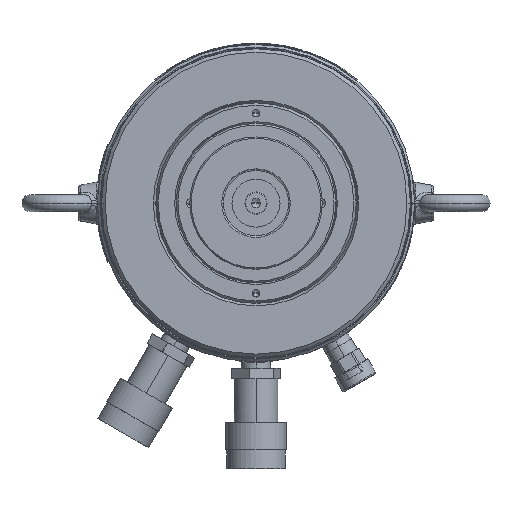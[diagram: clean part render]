
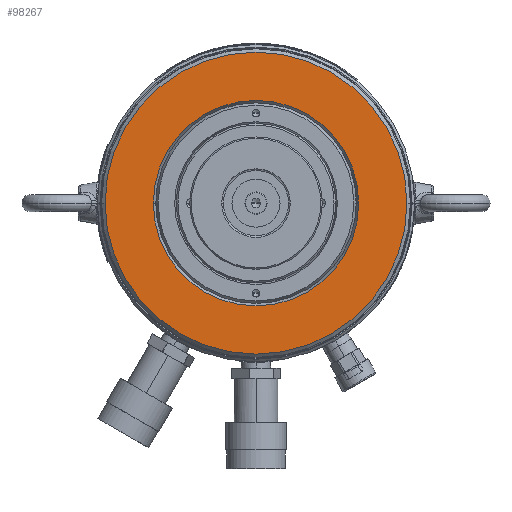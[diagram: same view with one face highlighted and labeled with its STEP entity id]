
A CAD part, front view. The second image highlights one B-rep face of the part: STEP entity #98267.
In plain terms, the highlighted planar face has unit normal (0, -1, 0).
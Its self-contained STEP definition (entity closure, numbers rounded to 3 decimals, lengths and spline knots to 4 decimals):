
#40537=CARTESIAN_POINT('',(0.,-1.4173,0.));
#40538=DIRECTION('',(0.,-1.,0.));
#40539=DIRECTION('',(-1.,0.,0.));
#40540=AXIS2_PLACEMENT_3D('',#40537,#40538,#40539);
#40542=CARTESIAN_POINT('',(0.,-1.4173,0.));
#40543=DIRECTION('',(0.,-1.,0.));
#40544=DIRECTION('',(1.,0.,0.));
#40545=AXIS2_PLACEMENT_3D('',#40542,#40543,#40544);
#40547=CARTESIAN_POINT('',(0.,-1.4173,0.));
#40548=DIRECTION('',(0.,1.,0.));
#40549=DIRECTION('',(1.,0.,0.));
#40550=AXIS2_PLACEMENT_3D('',#40547,#40548,#40549);
#40552=CARTESIAN_POINT('',(0.,-1.4173,0.));
#40553=DIRECTION('',(0.,1.,0.));
#40554=DIRECTION('',(-1.,0.,0.));
#40555=AXIS2_PLACEMENT_3D('',#40552,#40553,#40554);
#76476=CARTESIAN_POINT('',(2.3577,-1.4173,0.));
#76477=CARTESIAN_POINT('',(-2.3577,-1.4173,0.));
#76478=VERTEX_POINT('',#76476);
#76479=VERTEX_POINT('',#76477);
#76480=CARTESIAN_POINT('',(-3.4646,-1.4173,0.));
#76481=CARTESIAN_POINT('',(3.4646,-1.4173,0.));
#76482=VERTEX_POINT('',#76480);
#76483=VERTEX_POINT('',#76481);
#98251=CARTESIAN_POINT('',(0.,-1.4173,0.));
#98252=DIRECTION('',(0.,1.,0.));
#98253=DIRECTION('',(-1.,0.,0.));
#98254=AXIS2_PLACEMENT_3D('',#98251,#98252,#98253);
#98255=PLANE('',#98254);
#98257=ORIENTED_EDGE('',*,*,#98256,.F.);
#98258=ORIENTED_EDGE('',*,*,#98241,.F.);
#98259=EDGE_LOOP('',(#98257,#98258));
#98260=FACE_OUTER_BOUND('',#98259,.F.);
#98262=ORIENTED_EDGE('',*,*,#98261,.F.);
#98264=ORIENTED_EDGE('',*,*,#98263,.F.);
#98265=EDGE_LOOP('',(#98262,#98264));
#98266=FACE_BOUND('',#98265,.F.);
#98267=ADVANCED_FACE('',(#98260,#98266),#98255,.F.);
#40541=CIRCLE('',#40540,3.4646);
#40546=CIRCLE('',#40545,3.4646);
#40551=CIRCLE('',#40550,2.3577);
#40556=CIRCLE('',#40555,2.3577);
#98241=EDGE_CURVE('',#76483,#76482,#40546,.T.);
#98256=EDGE_CURVE('',#76482,#76483,#40541,.T.);
#98261=EDGE_CURVE('',#76478,#76479,#40551,.T.);
#98263=EDGE_CURVE('',#76479,#76478,#40556,.T.);
